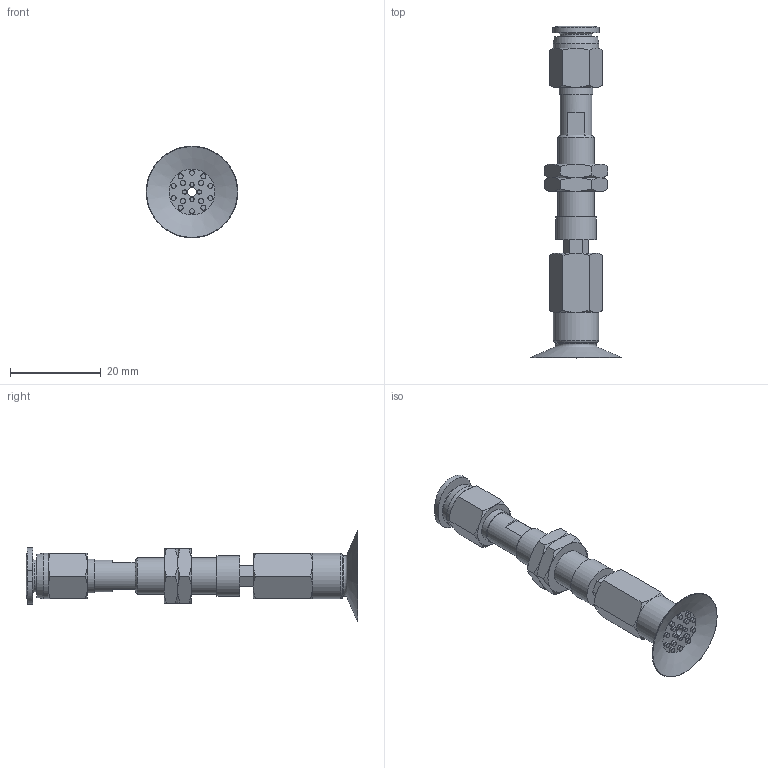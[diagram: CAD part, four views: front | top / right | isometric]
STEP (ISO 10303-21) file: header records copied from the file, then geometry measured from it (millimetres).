
FILE_DESCRIPTION(('STEP AP203'),'1');
FILE_NAME('-O.stp','2025-08-21T08:29:18',(' '),(' '),'Spatial InterOp 3D',' ',' ');
FILE_SCHEMA(('CONFIG_CONTROL_DESIGN'));
Length unit declared in the file: millimetre
Products named in the file (7): BNABPATH-20A-3-※-O; ADAPTER; NAPATH-10A-3--M; NAPATH-20A-3--F; Nut-10A-S; PC-C_06-M5; BPAG-20A-※
Assembly tree (7 placements, depth 2):
  BNABPATH-20A-3-※-O
    ADAPTER
    NAPATH-10A-3--M
    NAPATH-20A-3--F
    Nut-10A-S  x2
    PC-C_06-M5
    BPAG-20A-※
Bounding box: 20.19 x 72.98 x 20.19 mm (x, y, z)
Volume: 4515 mm3; surface area: 5653.1 mm2
Topology: 7 solids, 7 shells, 210 faces, 419 edges, 257 vertices
Faces by surface type: plane 88, cone 62, cylinder 41, torus 12, bspline 4, revolution 3
Full cylindrical faces by diameter (mm): 0.9 x4, 1.1 x14, 2 x3, 4 x4, 4.134 x1, 5 x1, 6 x2, 7 x2, 7.188 x2, 7.4 x1, 8 x1, 8.2 x1, 9 x1, 10 x2
Entity records: 5200 total; most frequent: CARTESIAN_POINT 1360, DIRECTION 735, ORIENTED_EDGE 594, AXIS2_PLACEMENT_3D 330, EDGE_CURVE 297, EDGE_LOOP 294, FACE_OUTER_BOUND 237, VERTEX_POINT 219
